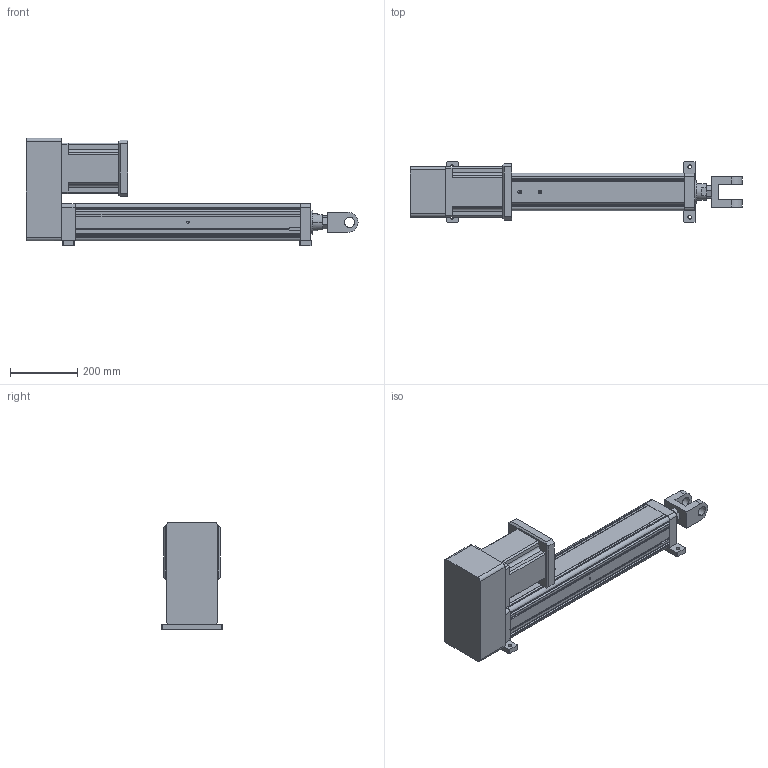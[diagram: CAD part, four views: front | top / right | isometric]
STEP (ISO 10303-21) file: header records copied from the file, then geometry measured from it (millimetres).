
FILE_DESCRIPTION (( 'STEP AP203' ), '1' );
FILE_NAME ('YRJ110-L500-H2K4.STEP', '2020-01-04T06:04:59', ( 'User' ), ( 'China' ), 'SwSTEP 2.0', 'SolidWorks 2016', '' );
FILE_SCHEMA (( 'CONFIG_CONTROL_DESIGN' ));
Length unit declared in the file: millimetre
Products named in the file (7): K4-110; H2-110-2; 095-100俴最倰第; 142熬厒儂; H2-110-1; YRJ110-L500-H2K4; 萇儂碟-110
Assembly tree (6 placements, depth 2):
  YRJ110-L500-H2K4
    095-100俴最倰第
    萇儂碟-110
    142熬厒儂
    K4-110
    H2-110-1
    H2-110-2
Bounding box: 986 x 180 x 320 mm (x, y, z)
Volume: 12981904.1 mm3; surface area: 1123531.7 mm2
Topology: 6 solids, 6 shells, 340 faces, 936 edges, 605 vertices
Faces by surface type: plane 197, cylinder 116, cone 27
Entity records: 11776 total; most frequent: CARTESIAN_POINT 2214, DIRECTION 1843, ORIENTED_EDGE 1840, EDGE_CURVE 920, VECTOR 651, LINE 651, VERTEX_POINT 605, AXIS2_PLACEMENT_3D 596
